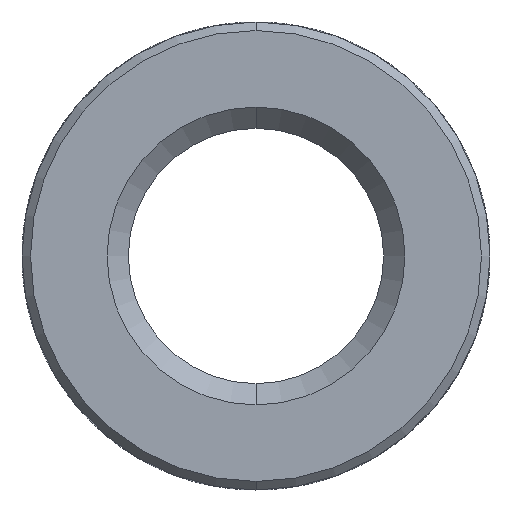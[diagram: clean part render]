
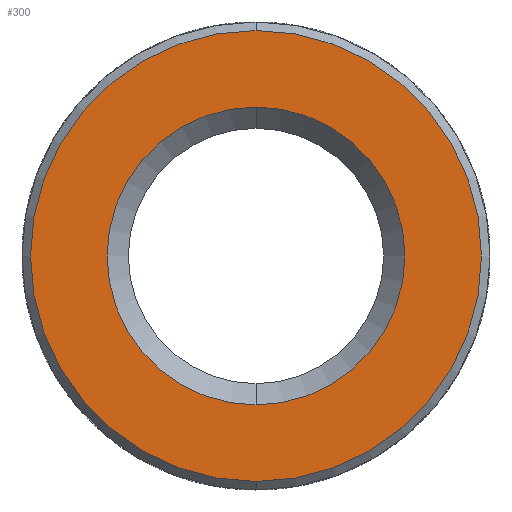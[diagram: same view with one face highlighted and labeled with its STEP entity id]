
A CAD part, front view. The second image highlights one B-rep face of the part: STEP entity #300.
In plain terms, the highlighted planar face has unit normal (0, -1, 0).
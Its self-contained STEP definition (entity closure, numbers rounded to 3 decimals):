
#55 = CARTESIAN_POINT ( 'NONE',  ( 0., -4.8, 0. ) ) ;
#133 = AXIS2_PLACEMENT_3D ( 'NONE', #292, #3053, #307 ) ;
#278 = DIRECTION ( 'NONE',  ( 0., 0., -1. ) ) ;
#292 = CARTESIAN_POINT ( 'NONE',  ( 0., -4.8, 0. ) ) ;
#300 = ADVANCED_FACE ( 'NONE', ( #3335, #465 ), #2206, .T. ) ;
#307 = DIRECTION ( 'NONE',  ( 0., 0., -1. ) ) ;
#410 = EDGE_CURVE ( 'NONE', #1131, #637, #2699, .T. ) ;
#422 = DIRECTION ( 'NONE',  ( 0., 0., -1. ) ) ;
#424 = DIRECTION ( 'NONE',  ( 0., 0., -1. ) ) ;
#465 = FACE_BOUND ( 'NONE', #941, .T. ) ;
#476 = AXIS2_PLACEMENT_3D ( 'NONE', #3629, #873, #278 ) ;
#603 = ORIENTED_EDGE ( 'NONE', *, *, #410, .T. ) ;
#637 = VERTEX_POINT ( 'NONE', #920 ) ;
#667 = VERTEX_POINT ( 'NONE', #2722 ) ;
#711 = EDGE_CURVE ( 'NONE', #667, #2990, #3688, .T. ) ;
#873 = DIRECTION ( 'NONE',  ( 0., 1., 0. ) ) ;
#920 = CARTESIAN_POINT ( 'NONE',  ( 0., -4.8, 2.65 ) ) ;
#941 = EDGE_LOOP ( 'NONE', ( #1321, #1011 ) ) ;
#1011 = ORIENTED_EDGE ( 'NONE', *, *, #711, .T. ) ;
#1131 = VERTEX_POINT ( 'NONE', #3264 ) ;
#1321 = ORIENTED_EDGE ( 'NONE', *, *, #1544, .T. ) ;
#1337 = CARTESIAN_POINT ( 'NONE',  ( 0., -4.8, 0. ) ) ;
#1544 = EDGE_CURVE ( 'NONE', #2990, #667, #1957, .T. ) ;
#1670 = CIRCLE ( 'NONE', #2899, 2.65 ) ;
#1903 = DIRECTION ( 'NONE',  ( 0., 0., -1. ) ) ;
#1928 = DIRECTION ( 'NONE',  ( 0., -1., 0. ) ) ;
#1957 = CIRCLE ( 'NONE', #133, 1.75 ) ;
#2017 = AXIS2_PLACEMENT_3D ( 'NONE', #1337, #2228, #424 ) ;
#2206 = PLANE ( 'NONE',  #3769 ) ;
#2228 = DIRECTION ( 'NONE',  ( 0., -1., 0. ) ) ;
#2238 = DIRECTION ( 'NONE',  ( 0., -1., 0. ) ) ;
#2431 = EDGE_LOOP ( 'NONE', ( #2674, #603 ) ) ;
#2511 = EDGE_CURVE ( 'NONE', #637, #1131, #1670, .T. ) ;
#2674 = ORIENTED_EDGE ( 'NONE', *, *, #2511, .T. ) ;
#2699 = CIRCLE ( 'NONE', #2017, 2.65 ) ;
#2722 = CARTESIAN_POINT ( 'NONE',  ( 0., -4.8, 1.75 ) ) ;
#2899 = AXIS2_PLACEMENT_3D ( 'NONE', #55, #2238, #422 ) ;
#2990 = VERTEX_POINT ( 'NONE', #3009 ) ;
#3009 = CARTESIAN_POINT ( 'NONE',  ( 0., -4.8, -1.75 ) ) ;
#3053 = DIRECTION ( 'NONE',  ( 0., 1., 0. ) ) ;
#3146 = CARTESIAN_POINT ( 'NONE',  ( 0., -4.8, 2.75 ) ) ;
#3264 = CARTESIAN_POINT ( 'NONE',  ( 0., -4.8, -2.65 ) ) ;
#3335 = FACE_OUTER_BOUND ( 'NONE', #2431, .T. ) ;
#3629 = CARTESIAN_POINT ( 'NONE',  ( 0., -4.8, 0. ) ) ;
#3688 = CIRCLE ( 'NONE', #476, 1.75 ) ;
#3769 = AXIS2_PLACEMENT_3D ( 'NONE', #3146, #1928, #1903 ) ;
